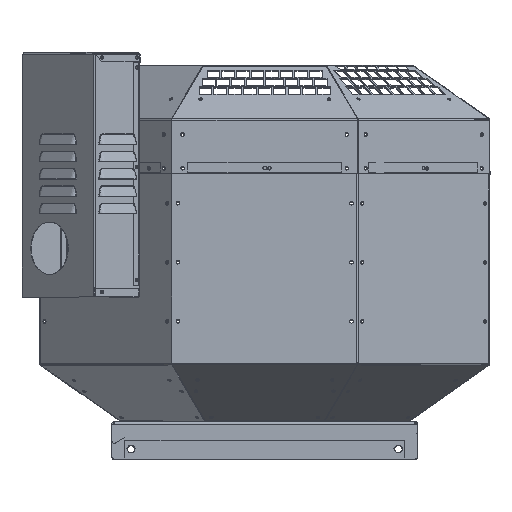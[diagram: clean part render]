
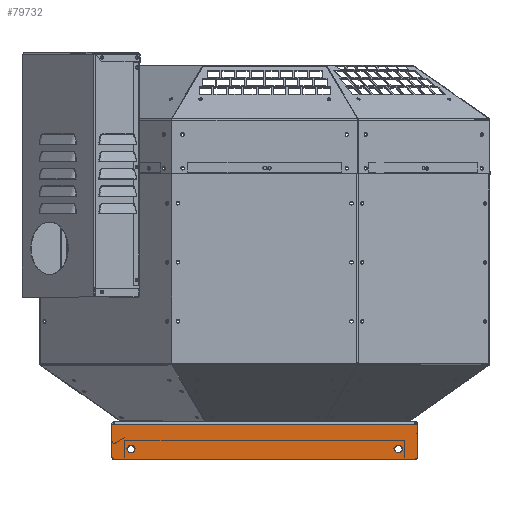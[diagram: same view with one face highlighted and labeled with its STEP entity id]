
A CAD part, top view. The second image highlights one B-rep face of the part: STEP entity #79732.
In plain terms, the highlighted planar face has unit normal (0, 0, 1).
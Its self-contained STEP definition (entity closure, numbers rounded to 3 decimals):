
#131 = LINE ( 'NONE', #33316, #67992 ) ;
#582 = CARTESIAN_POINT ( 'NONE',  ( 181.525, -41.682, 170.3 ) ) ;
#940 = EDGE_LOOP ( 'NONE', ( #42195, #14902 ) ) ;
#1768 = CARTESIAN_POINT ( 'NONE',  ( 158.5, -32.732, 170.3 ) ) ;
#2107 = DIRECTION ( 'NONE',  ( -1., 0., 0. ) ) ;
#2702 = AXIS2_PLACEMENT_3D ( 'NONE', #31554, #78917, #38357 ) ;
#4101 = EDGE_CURVE ( 'NONE', #63897, #41612, #64742, .T. ) ;
#4215 = DIRECTION ( 'NONE',  ( 0., -1., 0. ) ) ;
#4597 = CARTESIAN_POINT ( 'NONE',  ( -181.525, -3.632, 170.3 ) ) ;
#5624 = VECTOR ( 'NONE', #26033, 1000. ) ;
#7186 = ORIENTED_EDGE ( 'NONE', *, *, #14615, .T. ) ;
#8291 = CARTESIAN_POINT ( 'NONE',  ( 158.5, -32.732, 170.3 ) ) ;
#8627 = DIRECTION ( 'NONE',  ( 0., -1., 0. ) ) ;
#9882 = EDGE_CURVE ( 'NONE', #71789, #82379, #81529, .T. ) ;
#10768 = PLANE ( 'NONE',  #75862 ) ;
#11343 = VECTOR ( 'NONE', #51300, 1000. ) ;
#11622 = VERTEX_POINT ( 'NONE', #84767 ) ;
#12394 = CARTESIAN_POINT ( 'NONE',  ( 181.525, -3.632, 170.3 ) ) ;
#13118 = CARTESIAN_POINT ( 'NONE',  ( -158.5, -37.232, 170.3 ) ) ;
#14040 = CIRCLE ( 'NONE', #21221, 3. ) ;
#14615 = EDGE_CURVE ( 'NONE', #41612, #45382, #131, .T. ) ;
#14902 = ORIENTED_EDGE ( 'NONE', *, *, #42420, .F. ) ;
#15044 = ORIENTED_EDGE ( 'NONE', *, *, #4101, .T. ) ;
#15049 = VECTOR ( 'NONE', #2107, 1000. ) ;
#15121 = DIRECTION ( 'NONE',  ( 0., -1., 0. ) ) ;
#15273 = EDGE_LOOP ( 'NONE', ( #79118, #56254, #69299, #45167, #83467, #15044, #7186, #71327 ) ) ;
#17631 = CARTESIAN_POINT ( 'NONE',  ( -158.5, -32.732, 170.3 ) ) ;
#17769 = EDGE_CURVE ( 'NONE', #60832, #19264, #41094, .T. ) ;
#19264 = VERTEX_POINT ( 'NONE', #582 ) ;
#20583 = VECTOR ( 'NONE', #62435, 1000. ) ;
#21018 = EDGE_LOOP ( 'NONE', ( #76767, #82635 ) ) ;
#21221 = AXIS2_PLACEMENT_3D ( 'NONE', #69531, #29000, #76334 ) ;
#21805 = AXIS2_PLACEMENT_3D ( 'NONE', #17631, #64978, #24425 ) ;
#23676 = LINE ( 'NONE', #12394, #5624 ) ;
#24414 = CARTESIAN_POINT ( 'NONE',  ( -169.025, -1.732, 170.3 ) ) ;
#24425 = DIRECTION ( 'NONE',  ( 0., -1., 0. ) ) ;
#24985 = EDGE_CURVE ( 'NONE', #58276, #39141, #85393, .T. ) ;
#25367 = DIRECTION ( 'NONE',  ( -1., 0., 0. ) ) ;
#25754 = AXIS2_PLACEMENT_3D ( 'NONE', #1768, #49234, #8627 ) ;
#26033 = DIRECTION ( 'NONE',  ( 0., -1., 0. ) ) ;
#26393 = EDGE_CURVE ( 'NONE', #11622, #19264, #23676, .T. ) ;
#27265 = LINE ( 'NONE', #37048, #11343 ) ;
#27797 = CARTESIAN_POINT ( 'NONE',  ( -158.5, -28.232, 170.3 ) ) ;
#27803 = EDGE_CURVE ( 'NONE', #52209, #11622, #58707, .T. ) ;
#29000 = DIRECTION ( 'NONE',  ( 0., 0., 1. ) ) ;
#31519 = FACE_OUTER_BOUND ( 'NONE', #15273, .T. ) ;
#31554 = CARTESIAN_POINT ( 'NONE',  ( -158.5, -32.732, 170.3 ) ) ;
#33286 = EDGE_CURVE ( 'NONE', #60832, #44431, #27265, .T. ) ;
#33316 = CARTESIAN_POINT ( 'NONE',  ( -181.525, -3.632, 170.3 ) ) ;
#33647 = FACE_BOUND ( 'NONE', #21018, .T. ) ;
#34693 = CARTESIAN_POINT ( 'NONE',  ( -178.525, -44.682, 170.3 ) ) ;
#36332 = AXIS2_PLACEMENT_3D ( 'NONE', #38132, #85552, #44982 ) ;
#37048 = CARTESIAN_POINT ( 'NONE',  ( -169.025, -44.682, 170.3 ) ) ;
#38132 = CARTESIAN_POINT ( 'NONE',  ( 178.525, -41.682, 170.3 ) ) ;
#38357 = DIRECTION ( 'NONE',  ( 0., -1., 0. ) ) ;
#38958 = CARTESIAN_POINT ( 'NONE',  ( 158.5, -28.232, 170.3 ) ) ;
#39141 = VERTEX_POINT ( 'NONE', #38958 ) ;
#41094 = CIRCLE ( 'NONE', #36332, 3. ) ;
#41612 = VERTEX_POINT ( 'NONE', #4597 ) ;
#42195 = ORIENTED_EDGE ( 'NONE', *, *, #24985, .F. ) ;
#42420 = EDGE_CURVE ( 'NONE', #39141, #58276, #65156, .T. ) ;
#44431 = VERTEX_POINT ( 'NONE', #34693 ) ;
#44859 = DIRECTION ( 'NONE',  ( 0., 0., 1. ) ) ;
#44982 = DIRECTION ( 'NONE',  ( 0., -1., 0. ) ) ;
#45167 = ORIENTED_EDGE ( 'NONE', *, *, #27803, .F. ) ;
#45382 = VERTEX_POINT ( 'NONE', #50887 ) ;
#49234 = DIRECTION ( 'NONE',  ( 0., 0., 1. ) ) ;
#49545 = FACE_BOUND ( 'NONE', #940, .T. ) ;
#50365 = EDGE_CURVE ( 'NONE', #82379, #71789, #76276, .T. ) ;
#50887 = CARTESIAN_POINT ( 'NONE',  ( -181.525, -41.682, 170.3 ) ) ;
#51017 = VECTOR ( 'NONE', #25367, 1000. ) ;
#51121 = LINE ( 'NONE', #56331, #15049 ) ;
#51300 = DIRECTION ( 'NONE',  ( -1., 0., 0. ) ) ;
#52209 = VERTEX_POINT ( 'NONE', #77376 ) ;
#55637 = CARTESIAN_POINT ( 'NONE',  ( 169.025, -3.632, 170.3 ) ) ;
#55666 = DIRECTION ( 'NONE',  ( 0., 0., 1. ) ) ;
#56124 = EDGE_CURVE ( 'NONE', #45382, #44431, #14040, .T. ) ;
#56254 = ORIENTED_EDGE ( 'NONE', *, *, #17769, .T. ) ;
#56331 = CARTESIAN_POINT ( 'NONE',  ( -169.025, -3.632, 170.3 ) ) ;
#57234 = CARTESIAN_POINT ( 'NONE',  ( -178.125, -3.632, 170.3 ) ) ;
#58276 = VERTEX_POINT ( 'NONE', #73311 ) ;
#58707 = LINE ( 'NONE', #55637, #20583 ) ;
#58787 = CARTESIAN_POINT ( 'NONE',  ( -169.025, -3.632, 170.3 ) ) ;
#60832 = VERTEX_POINT ( 'NONE', #87760 ) ;
#62435 = DIRECTION ( 'NONE',  ( 1., 0., 0. ) ) ;
#63817 = AXIS2_PLACEMENT_3D ( 'NONE', #8291, #55666, #15121 ) ;
#63897 = VERTEX_POINT ( 'NONE', #57234 ) ;
#64742 = LINE ( 'NONE', #58787, #51017 ) ;
#64978 = DIRECTION ( 'NONE',  ( 0., 0., 1. ) ) ;
#65156 = CIRCLE ( 'NONE', #25754, 4.5 ) ;
#67043 = DIRECTION ( 'NONE',  ( 0., -1., 0. ) ) ;
#67992 = VECTOR ( 'NONE', #67043, 1000. ) ;
#69299 = ORIENTED_EDGE ( 'NONE', *, *, #26393, .F. ) ;
#69531 = CARTESIAN_POINT ( 'NONE',  ( -178.525, -41.682, 170.3 ) ) ;
#71327 = ORIENTED_EDGE ( 'NONE', *, *, #56124, .T. ) ;
#71789 = VERTEX_POINT ( 'NONE', #27797 ) ;
#73311 = CARTESIAN_POINT ( 'NONE',  ( 158.5, -37.232, 170.3 ) ) ;
#75862 = AXIS2_PLACEMENT_3D ( 'NONE', #24414, #44859, #4215 ) ;
#76276 = CIRCLE ( 'NONE', #2702, 4.5 ) ;
#76334 = DIRECTION ( 'NONE',  ( 0., -1., 0. ) ) ;
#76767 = ORIENTED_EDGE ( 'NONE', *, *, #50365, .F. ) ;
#77376 = CARTESIAN_POINT ( 'NONE',  ( 178.125, -3.632, 170.3 ) ) ;
#78917 = DIRECTION ( 'NONE',  ( 0., 0., 1. ) ) ;
#79118 = ORIENTED_EDGE ( 'NONE', *, *, #33286, .F. ) ;
#79732 = ADVANCED_FACE ( 'NONE', ( #49545, #33647, #31519 ), #10768, .T. ) ;
#81529 = CIRCLE ( 'NONE', #21805, 4.5 ) ;
#82379 = VERTEX_POINT ( 'NONE', #13118 ) ;
#82635 = ORIENTED_EDGE ( 'NONE', *, *, #9882, .F. ) ;
#83467 = ORIENTED_EDGE ( 'NONE', *, *, #86160, .T. ) ;
#84767 = CARTESIAN_POINT ( 'NONE',  ( 181.525, -3.632, 170.3 ) ) ;
#85393 = CIRCLE ( 'NONE', #63817, 4.5 ) ;
#85552 = DIRECTION ( 'NONE',  ( 0., 0., 1. ) ) ;
#86160 = EDGE_CURVE ( 'NONE', #52209, #63897, #51121, .T. ) ;
#87760 = CARTESIAN_POINT ( 'NONE',  ( 178.525, -44.682, 170.3 ) ) ;
